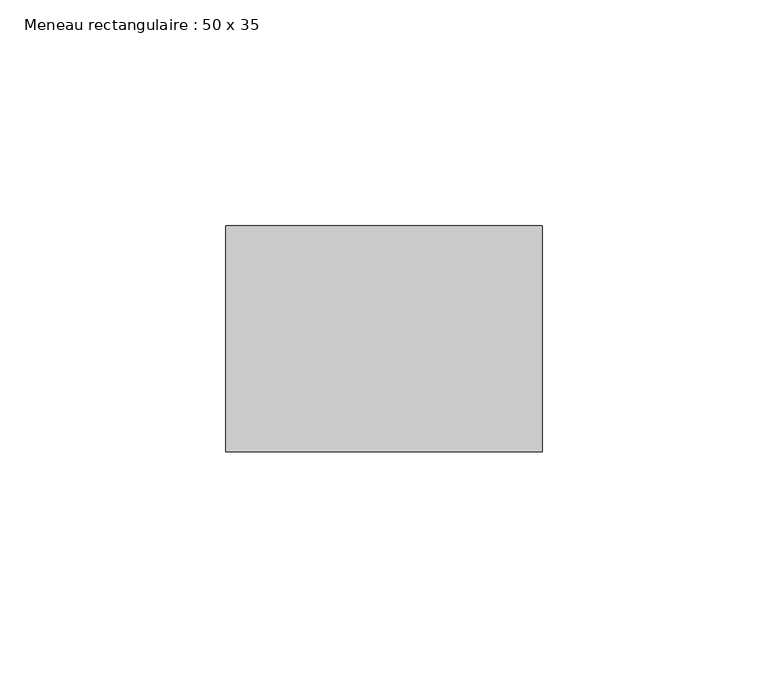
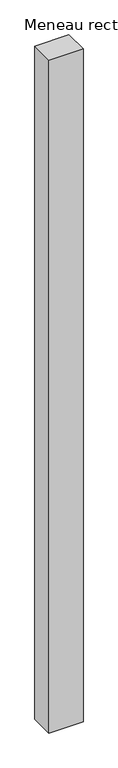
"""IFC4 building model written with IfcOpenShell, lengths in millimetres: member geometry, Meneau rectangulaire : 50 x 35."""

from ifc_helpers import new_model, si_unit, frame, origin, place, context, project, spatial, polyline, outline, extrude, source, transform, mapped, element, save


def meneau_rectangulaire_50_x_35_361b6289(model_context):
    return source(origin(), model_context, "Body", "SweptSolid", [
        extrude(outline(polyline([(0.0, 0.0), (0.0, -50.0), (-70.0, -50.0), (-70.0, 0.0), (0.0, 0.0)])), frame((0.0, 0.0, -1460.8604829), z_axis=(0.0, 0.0, 1.0), x_axis=(1.0, 0.0, 0.0)), (0.0, 0.0, 1.0), 1460.8604829),
    ])


if __name__ == "__main__":
    model = new_model("IFC4")
    model_context = context("Model", 3, world=origin())
    ifc_project = project(units=[si_unit("LENGTHUNIT", "METRE", prefix="MILLI")], contexts=[model_context])
    site = spatial("IfcSite", under=ifc_project)
    building = spatial("IfcBuilding", under=site)
    placement = place(None, origin())
    meneau_rectangulaire_50_x_35_shape = meneau_rectangulaire_50_x_35_361b6289(model_context)
    element("IfcMember", 1, ObjectType="Meneau rectangulaire : 50 x 35", at=placement, inside=building, context=model_context, shape_type="MappedRepresentation", body=[
        mapped(meneau_rectangulaire_50_x_35_shape, transform((0.0, 0.0, 0.0), x_axis=(1.0, 0.0, 0.0), y_axis=(0.0, 1.0, 0.0), z_axis=(0.0, 0.0, 1.0))),
    ])
    save(model, "model.ifc")
